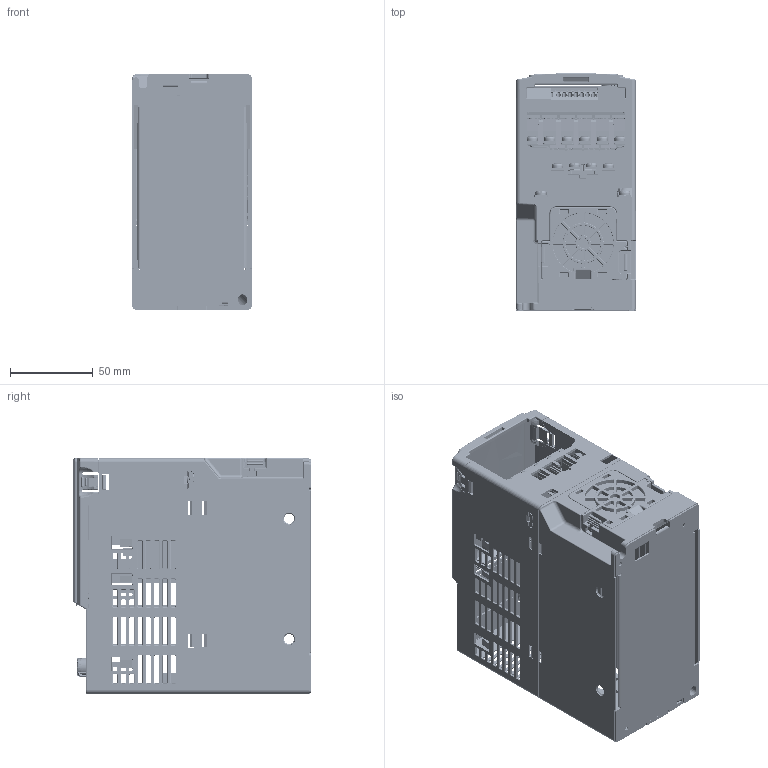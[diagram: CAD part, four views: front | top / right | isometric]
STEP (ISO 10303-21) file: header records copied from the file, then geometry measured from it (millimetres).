
FILE_DESCRIPTION((''),'2;1');
FILE_NAME('VFD-ME300-B3-PD-3D00-KEN_ASM','2018-11-26T',('KEN.HUNG'),(''),'PRO/ENGINEER BY PARAMETRIC TECHNOLOGY CORPORATION, 2015240','PRO/ENGINEER BY PARAMETRIC TECHNOLOGY CORPORATION, 2015240','');
FILE_SCHEMA(('AUTOMOTIVE_DESIGN { 1 0 10303 214 1 1 1 1 }'));
Products named in the file (133): PRT0303; PRT0304; PRT0305; ASM0154_ASM_ASM; PRT0306; ASM0155_ASM_ASM; PRT0307; PRT0308; PRT0309; PRT0310; PRT0311; PRT0312; PRT0313; PRT0314; PRT0315; PRT0316; PRT0317; PRT0318; PRT0319; PRT0320; PRT0321; ASM0156_ASM_ASM; PRT0322; PRT0323; PRT0324; ASM0157_ASM_ASM; PRT0325; PRT0326; PRT0327; PRT0328; ASM0158_ASM_ASM; PRT0329; ASM0153_ASM_ASM; ASM0152_ASM_ASM; ASM0151_ASM_ASM; PRT0330; PRT0331; PRT0332; ASM0170_ASM_ASM; ASM0169_ASM_ASM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
Assembly tree (134 placements, depth 10):
  VFD-ME300-B3-PD-3D00-KEN_ASM
    ASM0147_ASM_AF0_ASM
      ASM0148_ASM_AF0_ASM
        ASM0149_ASM_AF0_ASM
          ASM0150_ASM_AF0_ASM
            ASM0151_ASM_ASM
              ASM0152_ASM_ASM
                ASM0153_ASM_ASM
                  PRT0303
                  PRT0304
                  ASM0154_ASM_ASM
                  ASM0155_ASM_ASM
                  PRT0307
                  PRT0308
                  PRT0309
                  PRT0310
                  PRT0311
                  ASM0156_ASM_ASM
                  ASM0157_ASM_ASM
                  ASM0158_ASM_ASM
                  PRT0329
            ASM0169_ASM_ASM
              ASM0170_ASM_ASM
                PRT0330
                PRT0331
                PRT0332
            ASM0171_ASM_AF0_ASM
              ASM0172_ASM_AF0_ASM
                PRT0333_AF0
                PRT0334
                PRT0335
                PRT0336
            ASM0173_ASM_ASM
              ASM0174_ASM_ASM
                PRT0338
                PRT0339
                PRT0340
                PRT0341
                PRT0342
                PRT0345
            ASM0175_ASM_ASM
              PRT0348
            ASM0176_ASM_ASM
              ASM0177_ASM_ASM
                PRT0349
                PRT0351
                PRT0353
                PRT0354
                PRT0355
                PRT0356
                PRT0358
                PRT0360
                PRT0362
                PRT0363
                PRT0366
                PRT0372
                PRT0373
            ASM0178_ASM_ASM
              ASM0179_ASM_ASM
                PRT0379
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Bounding box: 72 x 142.99 x 142 mm (x, y, z)
Volume: 142117.7 mm3; surface area: 223727.4 mm2
Topology: 82 solids, 106 shells, 8211 faces, 22002 edges, 13969 vertices
Faces by surface type: plane 4356, cylinder 2370, bspline 498, extrusion 330, cone 310, torus 269, sphere 66, revolution 12
Entity records: 285382 total; most frequent: CARTESIAN_POINT 80182, ORIENTED_EDGE 43200, DIRECTION 38228, EDGE_CURVE 21669, VECTOR 14236, LINE 13906, VERTEX_POINT 13793, AXIS2_PLACEMENT_3D 11990
